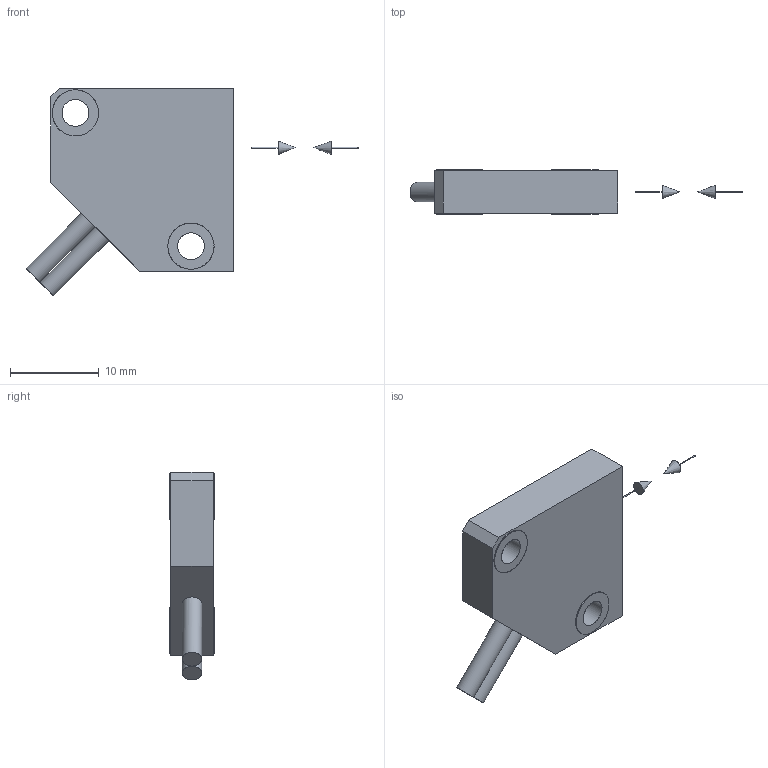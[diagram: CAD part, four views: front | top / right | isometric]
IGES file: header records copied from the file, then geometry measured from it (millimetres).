
Start section: C
Global section: file name: HPF-D026.igs; native system:  By UGS Corp.; preprocessor: XPlus GENERIC/IGES 3.0; author: Author; organization: Title; date: 20150506.132355; units: millimetre
Bounding box: 37.36 x 5 x 23.41 mm (x, y, z)
Surface area: 1322.6 mm2 (no closed solid volume)
Topology: 0 solids, 0 shells, 94 faces, 470 edges, 468 vertices
Faces by surface type: bspline 94
